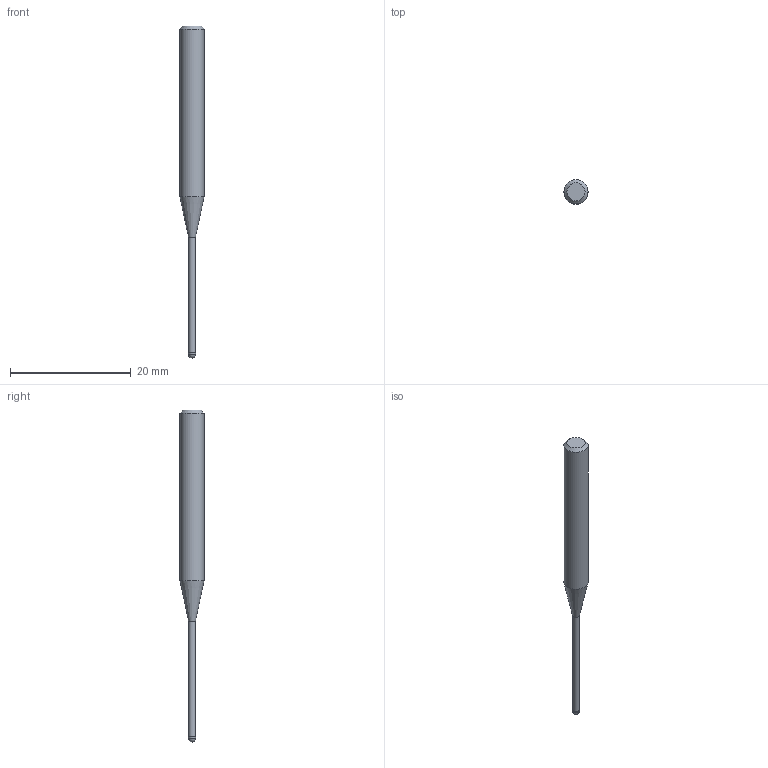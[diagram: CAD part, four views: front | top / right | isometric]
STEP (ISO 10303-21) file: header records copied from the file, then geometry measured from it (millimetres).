
FILE_DESCRIPTION((''),'2;1');
FILE_NAME('C:\Users\nsx150\AppData\Local\Temp\Mastercam 2021\3SYKECWX22\TEMP.step','2021-04-22T10:03:03',(''),(''),'STEP Write','Mastercam 2021 ... CNC Software, Inc.','');
FILE_SCHEMA(('AUTOMOTIVE_DESIGN'));
Length unit declared in the file: millimetre
Products named in the file (1): None
Bounding box: 4 x 4 x 55 mm (x, y, z)
Volume: 413.2 mm3; surface area: 494.1 mm2
Topology: 2 solids, 2 shells, 9 faces, 14 edges, 8 vertices
Faces by surface type: plane 3, cylinder 3, cone 2, sphere 1
Full cylindrical faces by diameter (mm): 1.15 x1, 1.2 x1, 4 x1
Entity records: 211 total; most frequent: DIRECTION 36, CARTESIAN_POINT 25, AXIS2_PLACEMENT_3D 18, ORIENTED_EDGE 14, EDGE_LOOP 14, STYLED_ITEM 12, ADVANCED_FACE 9, FACE_BOUND 8
